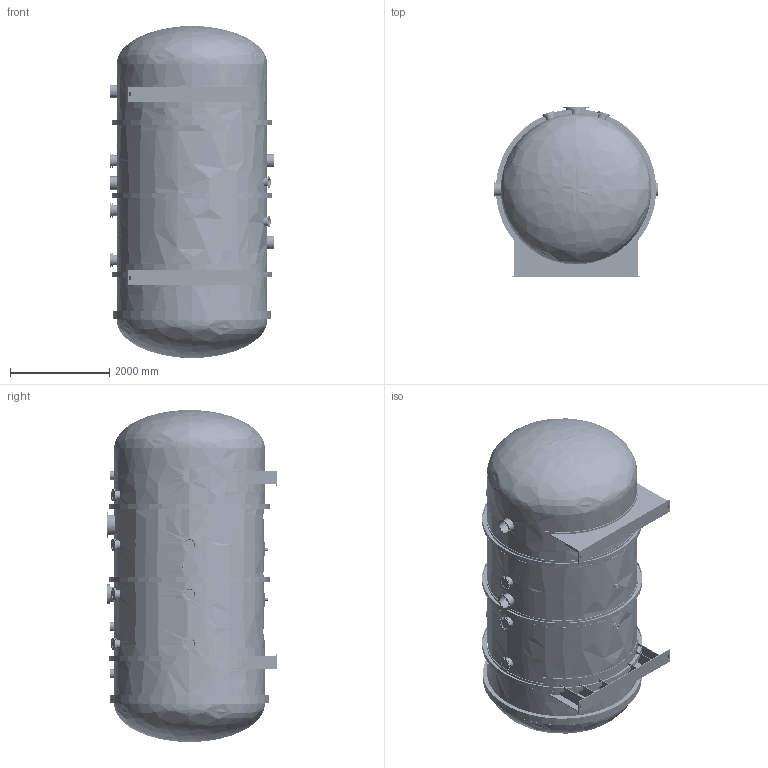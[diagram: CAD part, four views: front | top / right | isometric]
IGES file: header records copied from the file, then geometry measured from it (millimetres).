
Start section: START RECORD GO HERE.
Global section: file name: Mars.igs; native system: DASSAULT SYSTEMES CATIA V5 R21 - www.3ds.com; preprocessor: CATIA Version 5 Release 21 ; author: Administrator; organization: 2SFY32R3PI3R6ZD; date: 20190415.193824; units: millimetre
Bounding box: 3324 x 3431 x 6692 mm (x, y, z)
Surface area: 216452391.2 mm2 (no closed solid volume)
Topology: 0 solids, 0 shells, 4343 faces, 25196 edges, 24924 vertices
Faces by surface type: bspline 1600, revolution 1482, plane 1261
